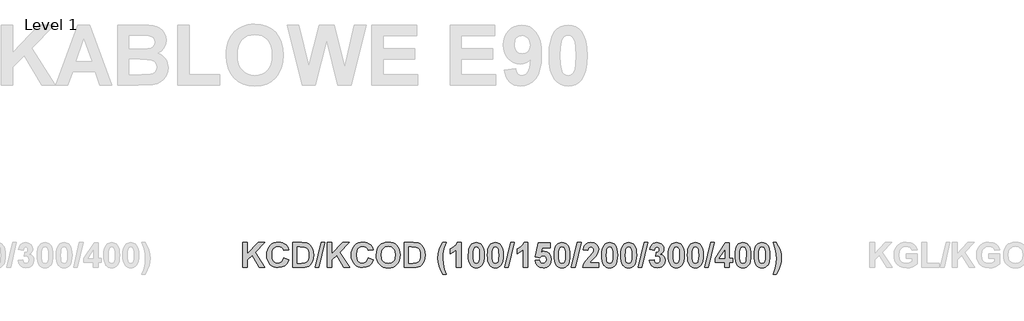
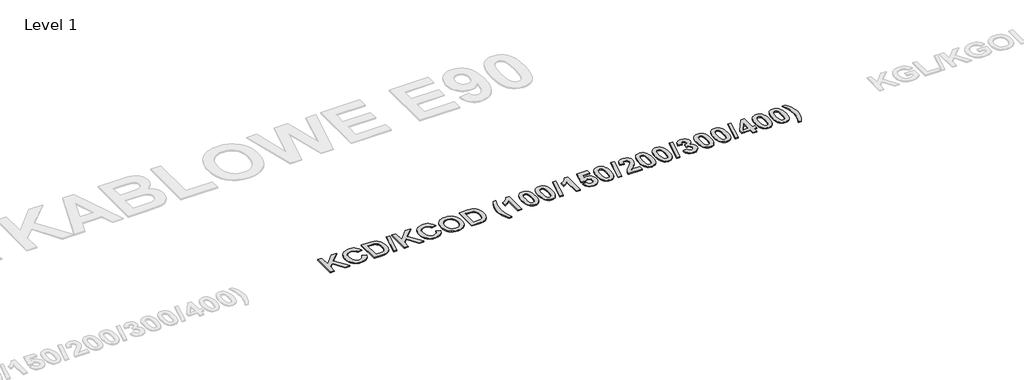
# One storey, part 18 of 42: 1 proxy.
"""IFC4 building model written with IfcOpenShell, lengths in millimetres."""

from ifc_helpers import new_model, si_unit, origin, origin_with_axes, place, context, project, spatial, polyline, outline, extrude, element, save

model = new_model("IFC4")

# Units and contexts
model_context = context("Model", 3, world=origin())
ifc_project = project(units=[si_unit("LENGTHUNIT", "METRE", prefix="MILLI")], contexts=[model_context])

# Site, building, storey
site = spatial("IfcSite", under=ifc_project)
building = spatial("IfcBuilding", under=site)
storey = spatial("IfcBuildingStorey", under=building, Name="Level 1", Elevation=0.0)

# Proxy
placement = place(None, origin())
element("IfcBuildingElementProxy", 1, Name="300mm Arial 2", ObjectType="300mm Arial 2", at=placement, inside=storey, context=model_context, shape_type="SweptSolid", body=[
    extrude(outline(polyline([(-9814.3228423, 4366.2760859), (-9814.3228423, 4621.3409359), (-9765.7390614, 4621.3409359), (-9765.7390614, 4505.0688143), (-9656.299034, 4621.3409359), (-9589.6228554, 4621.3409359), (-9686.157816, 4523.9203335), (-9585.574207, 4366.2760859), (-9642.381805, 4366.2760859), (-9717.7246216, 4491.9739671), (-9765.7390614, 4443.4534463), (-9765.7390614, 4366.2760859), (-9814.3228423, 4366.2760859)])), origin_with_axes(), (0.0, 0.0, 1.0), 10.0),
    extrude(outline(polyline([(-9393.2634074, 4463.4436478), (-9344.6796265, 4447.2490542), (-9360.0043933, 4411.4675423), (-9370.5253439, 4397.5325215), (-9382.952006, 4386.2346574), (-9413.3168691, 4371.2657288), (-9450.8933872, 4366.2760859), (-9475.2208615, 4368.4071616), (-9497.2788785, 4374.8003886), (-9517.0674384, 4385.455767), (-9534.5865411, 4400.3732968), (-9548.9228683, 4418.9875905), (-9559.1631021, 4440.7332606), (-9565.3072424, 4465.6103073), (-9567.3552891, 4493.6187305), (-9565.2894505, 4523.1533044), (-9559.0919345, 4549.192756), (-9548.7627411, 4571.7370854), (-9534.3018705, 4590.7862924), (-9516.4723978, 4605.9252326), (-9496.0373985, 4616.7387614), (-9472.9968725, 4623.2268786), (-9447.3508198, 4625.3895843), (-9424.9251032, 4623.6064394), (-9404.7134912, 4618.2570045), (-9386.7159838, 4609.3412797), (-9370.932581, 4596.8592651), (-9355.6078142, 4576.3471674), (-9344.6796265, 4548.4652645), (-9393.2634074, 4540.3679677), (-9400.7043804, 4557.1714401), (-9413.4117593, 4570.0053393), (-9430.4050121, 4578.1421737), (-9450.7036068, 4580.8544518), (-9478.1505963, 4575.9280691), (-9499.888359, 4561.1489208), (-9508.1497367, 4549.7719816), (-9514.0507209, 4535.3466947), (-9518.7715082, 4497.3510783), (-9514.1930562, 4457.275785), (-9508.4699912, 4442.2910414), (-9500.4577001, 4430.6748997), (-9479.3841689, 4415.7771388), (-9452.7911911, 4410.8112185), (-9432.7140069, 4413.9821326), (-9415.6258639, 4423.4948748), (-9402.2384386, 4439.8238963), (-9393.2634074, 4463.4436478)])), origin_with_axes(), (0.0, 0.0, 1.0), 10.0),
    extrude(outline(polyline([(-9304.1931423, 4621.3409359), (-9209.7457661, 4621.3409359), (-9181.5950076, 4620.1231784), (-9161.0354649, 4616.4699058), (-9140.1279914, 4607.2734642), (-9122.4467847, 4592.968767), (-9108.3002378, 4574.212138), (-9097.9967439, 4551.6599011), (-9091.7102683, 4524.3552469), (-9089.6147765, 4491.3413658), (-9091.5758405, 4462.0519249), (-9097.4590328, 4437.064173), (-9109.130527, 4411.8866407), (-9124.9139298, 4392.0229594), (-9140.6973326, 4380.4147253), (-9161.2252453, 4371.6531971), (-9181.1996318, 4367.6203637), (-9206.9623203, 4366.2760859), (-9304.1931423, 4366.2760859), (-9304.1931423, 4621.3409359)]), holes=[polyline([(-9255.6093614, 4576.8058034), (-9255.6093614, 4410.8112185), (-9214.2372354, 4410.8112185), (-9180.7093657, 4413.2151035), (-9158.3469093, 4423.6213951), (-9150.273335, 4433.3555478), (-9143.8287091, 4447.8183954), (-9139.6060953, 4467.7137067), (-9138.1985574, 4493.7452508), (-9139.6060953, 4519.4130491), (-9143.8287091, 4538.3436435), (-9150.5738206, 4552.1976123), (-9159.5488518, 4562.6355339), (-9171.0068431, 4569.9420791), (-9185.2008351, 4574.4019184), (-9230.6848696, 4576.8058034), (-9255.6093614, 4576.8058034)])]), origin_with_axes(), (0.0, 0.0, 1.0), 10.0),
    extrude(outline(polyline([(-9074.3058247, 4366.2760859), (-9013.5760985, 4621.3409359), (-8976.2526209, 4621.3409359), (-9036.9823471, 4366.2760859), (-9074.3058247, 4366.2760859)])), origin_with_axes(), (0.0, 0.0, 1.0), 10.0),
    extrude(outline(polyline([(-8951.9607304, 4366.2760859), (-8951.9607304, 4621.3409359), (-8903.3769495, 4621.3409359), (-8903.3769495, 4505.0688143), (-8793.9369221, 4621.3409359), (-8727.2607435, 4621.3409359), (-8823.7957041, 4523.9203335), (-8723.2120951, 4366.2760859), (-8780.0196932, 4366.2760859), (-8855.3625097, 4491.9739671), (-8903.3769495, 4443.4534463), (-8903.3769495, 4366.2760859), (-8951.9607304, 4366.2760859)])), origin_with_axes(), (0.0, 0.0, 1.0), 10.0),
    extrude(outline(polyline([(-8530.9012955, 4463.4436478), (-8482.3175146, 4447.2490542), (-8497.6422814, 4411.4675423), (-8508.163232, 4397.5325215), (-8520.5898941, 4386.2346574), (-8550.9547572, 4371.2657288), (-8588.5312753, 4366.2760859), (-8612.8587496, 4368.4071616), (-8634.9167667, 4374.8003886), (-8654.7053265, 4385.455767), (-8672.2244292, 4400.3732968), (-8686.5607565, 4418.9875905), (-8696.8009903, 4440.7332606), (-8702.9451305, 4465.6103073), (-8704.9931773, 4493.6187305), (-8702.9273386, 4523.1533044), (-8696.7298226, 4549.192756), (-8686.4006293, 4571.7370854), (-8671.9397586, 4590.7862924), (-8654.1102859, 4605.9252326), (-8633.6752866, 4616.7387614), (-8610.6347606, 4623.2268786), (-8584.9887079, 4625.3895843), (-8562.5629913, 4623.6064394), (-8542.3513793, 4618.2570045), (-8524.3538719, 4609.3412797), (-8508.5704691, 4596.8592651), (-8493.2457023, 4576.3471674), (-8482.3175146, 4548.4652645), (-8530.9012955, 4540.3679677), (-8538.3422685, 4557.1714401), (-8551.0496474, 4570.0053393), (-8568.0429002, 4578.1421737), (-8588.3414949, 4580.8544518), (-8615.7884844, 4575.9280691), (-8637.5262471, 4561.1489208), (-8645.7876249, 4549.7719816), (-8651.688609, 4535.3466947), (-8656.4093963, 4497.3510783), (-8651.8309443, 4457.275785), (-8646.1078793, 4442.2910414), (-8638.0955883, 4430.6748997), (-8617.022057, 4415.7771388), (-8590.4290792, 4410.8112185), (-8570.351895, 4413.9821326), (-8553.263752, 4423.4948748), (-8539.8763267, 4439.8238963), (-8530.9012955, 4463.4436478)])), origin_with_axes(), (0.0, 0.0, 1.0), 10.0),
    extrude(outline(polyline([(-8449.9283273, 4492.2270076), (-8447.0658063, 4528.000612), (-8438.4782435, 4557.5114633), (-8428.380345, 4575.9438841), (-8415.1668851, 4592.3994258), (-8399.6918754, 4605.8659263), (-8382.8093278, 4615.3312234), (-8357.6001654, 4622.8749941), (-8328.7851756, 4625.3895843), (-8302.4926834, 4623.2090867), (-8278.9678221, 4616.6675937), (-8258.2105914, 4605.7651054), (-8240.2209915, 4590.5016218), (-8225.6909301, 4571.3555477), (-8215.3123148, 4548.8052877), (-8209.0851456, 4522.8508419), (-8207.0094225, 4493.4922103), (-8209.0693306, 4464.3332434), (-8215.2490547, 4438.5349711), (-8225.5485948, 4416.0973932), (-8239.967951, 4397.0205098), (-8257.8389382, 4381.7985407), (-8278.4933711, 4370.9257056), (-8301.9312498, 4364.4020045), (-8328.1525743, 4362.2274375), (-8354.6506618, 4364.3921201), (-8378.2862284, 4370.886168), (-8399.0592741, 4381.7095811), (-8416.9697988, 4396.8623595), (-8431.389155, 4415.8107457), (-8441.6886952, 4438.0209825), (-8447.8684193, 4463.4930698), (-8449.9283273, 4492.2270076)]), holes=[polyline([(-8401.3445463, 4493.9982913), (-8396.1809381, 4456.2478079), (-8389.7264278, 4441.2749255), (-8380.6901134, 4428.9036161), (-8357.2443272, 4412.2978316), (-8328.2158344, 4406.7625701), (-8299.2506017, 4412.258294), (-8275.9945959, 4428.7454657), (-8267.0689867, 4441.1108446), (-8260.6935516, 4456.2240853), (-8255.5932035, 4494.6941528), (-8260.5591238, 4532.5869715), (-8266.7665242, 4547.4056573), (-8275.4568848, 4559.4725274), (-8298.5784628, 4575.5089707), (-8328.2158344, 4580.8544518), (-8357.9164661, 4575.4457106), (-8381.2278245, 4559.2194868), (-8390.0288903, 4547.0300503), (-8396.3153659, 4532.0967055), (-8401.3445463, 4493.9982913)])]), origin_with_axes(), (0.0, 0.0, 1.0), 10.0),
    extrude(outline(polyline([(-8166.5229384, 4621.3409359), (-8072.0755622, 4621.3409359), (-8043.9248037, 4620.1231784), (-8023.3652609, 4616.4699058), (-8002.4577875, 4607.2734642), (-7984.7765808, 4592.968767), (-7970.6300339, 4574.212138), (-7960.32654, 4551.6599011), (-7954.0400644, 4524.3552469), (-7951.9445725, 4491.3413658), (-7953.9056366, 4462.0519249), (-7959.7888288, 4437.064173), (-7971.4603231, 4411.8866407), (-7987.2437259, 4392.0229594), (-8003.0271287, 4380.4147253), (-8023.5550413, 4371.6531971), (-8043.5294278, 4367.6203637), (-8069.2921164, 4366.2760859), (-8166.5229384, 4366.2760859), (-8166.5229384, 4621.3409359)]), holes=[polyline([(-8117.9391575, 4576.8058034), (-8117.9391575, 4410.8112185), (-8076.5670315, 4410.8112185), (-8043.0391618, 4413.2151035), (-8020.6767054, 4423.6213951), (-8012.6031311, 4433.3555478), (-8006.1585052, 4447.8183954), (-8001.9358914, 4467.7137067), (-8000.5283535, 4493.7452508), (-8001.9358914, 4519.4130491), (-8006.1585052, 4538.3436435), (-8012.9036167, 4552.1976123), (-8021.8786479, 4562.6355339), (-8033.3366392, 4569.9420791), (-8047.5306312, 4574.4019184), (-8093.0146657, 4576.8058034), (-8117.9391575, 4576.8058034)])]), origin_with_axes(), (0.0, 0.0, 1.0), 10.0),
    extrude(outline(polyline([(-7737.3662067, 4297.4490629), (-7769.755394, 4297.4490629), (-7792.4262436, 4337.1210729), (-7808.9450454, 4378.327141), (-7819.0271289, 4419.6280993), (-7822.3878233, 4459.5847798), (-7818.2759148, 4506.9824333), (-7805.9401892, 4551.7547913), (-7789.7455955, 4588.0344767), (-7769.755394, 4621.3409359), (-7737.3662067, 4621.3409359), (-7754.9288007, 4574.1014328), (-7765.9914162, 4534.4847754), (-7771.8508858, 4497.6041188), (-7773.8040424, 4458.5726177), (-7769.1227927, 4401.92317), (-7756.280986, 4346.8552256), (-7737.3662067, 4297.4490629)])), origin_with_axes(), (0.0, 0.0, 1.0), 10.0),
    extrude(outline(polyline([(-7583.517567, 4366.2760859), (-7632.101348, 4366.2760859), (-7632.101348, 4548.5917848), (-7660.1572163, 4524.7110851), (-7692.8310741, 4507.9787804), (-7692.8310741, 4556.5625613), (-7673.3627687, 4565.6482977), (-7652.2813299, 4580.3800008), (-7633.8251865, 4599.3975778), (-7622.2327675, 4621.3409359), (-7583.517567, 4621.3409359), (-7583.517567, 4366.2760859)])), origin_with_axes(), (0.0, 0.0, 1.0), 10.0),
    extrude(outline(polyline([(-7429.6689273, 4621.3409359), (-7412.537293, 4619.6961725), (-7397.3904453, 4614.7618822), (-7384.2283842, 4606.5380652), (-7373.0511097, 4595.0247212), (-7362.3957313, 4576.8967398), (-7354.7847467, 4553.6367802), (-7350.218156, 4525.2448425), (-7348.6959591, 4491.7209266), (-7350.2260635, 4458.2286407), (-7354.8163768, 4429.8050729), (-7362.4668989, 4406.4502232), (-7373.1776299, 4388.1640914), (-7384.2995518, 4376.8168053), (-7397.4220753, 4368.711601), (-7412.5452005, 4363.8484784), (-7429.6689273, 4362.2274375), (-7446.9765039, 4364.0066287), (-7462.5246581, 4369.3442023), (-7476.3133899, 4378.2401583), (-7488.3426992, 4390.6944967), (-7498.0985976, 4407.7154258), (-7505.0670965, 4430.311154), (-7509.2481958, 4458.4816813), (-7510.6418956, 4492.2270076), (-7509.1117912, 4525.5532356), (-7504.5214779, 4553.8581907), (-7496.8709557, 4577.1418728), (-7486.1602247, 4595.404282), (-7475.0383029, 4606.7515681), (-7461.9157793, 4614.8567724), (-7446.7926542, 4619.7198951), (-7429.6689273, 4621.3409359)]), holes=[polyline([(-7429.6689273, 4576.8058034), (-7445.863521, 4571.4603223), (-7452.1895341, 4563.9877192), (-7456.8707839, 4552.2608724), (-7460.7612819, 4528.1113172), (-7462.0581146, 4491.7209266), (-7460.9036172, 4455.8128945), (-7457.440125, 4433.2369351), (-7452.2132567, 4419.9839375), (-7445.7686308, 4412.044791), (-7429.6689273, 4406.7625701), (-7413.4743337, 4412.1080512), (-7407.1483205, 4419.5806542), (-7402.4670708, 4431.3075011), (-7398.5765727, 4455.330536), (-7397.27974, 4491.7209266), (-7398.4342374, 4527.5894211), (-7401.8977296, 4550.173288), (-7407.124598, 4563.4658232), (-7413.5692239, 4571.4603223), (-7429.6689273, 4576.8058034)])]), origin_with_axes(), (0.0, 0.0, 1.0), 10.0),
    extrude(outline(polyline([(-7235.3338035, 4621.3409359), (-7218.2021692, 4619.6961725), (-7203.0553215, 4614.7618822), (-7189.8932604, 4606.5380652), (-7178.7159859, 4595.0247212), (-7168.0606075, 4576.8967398), (-7160.4496229, 4553.6367802), (-7155.8830322, 4525.2448425), (-7154.3608353, 4491.7209266), (-7155.8909397, 4458.2286407), (-7160.481253, 4429.8050729), (-7168.1317751, 4406.4502232), (-7178.8425061, 4388.1640914), (-7189.964428, 4376.8168053), (-7203.0869515, 4368.711601), (-7218.2100767, 4363.8484784), (-7235.3338035, 4362.2274375), (-7252.6413801, 4364.0066287), (-7268.1895343, 4369.3442023), (-7281.9782661, 4378.2401583), (-7294.0075754, 4390.6944967), (-7303.7634738, 4407.7154258), (-7310.7319727, 4430.311154), (-7314.913072, 4458.4816813), (-7316.3067718, 4492.2270076), (-7314.7766673, 4525.5532356), (-7310.1863541, 4553.8581907), (-7302.5358319, 4577.1418728), (-7291.8251009, 4595.404282), (-7280.703179, 4606.7515681), (-7267.5806555, 4614.8567724), (-7252.4575304, 4619.7198951), (-7235.3338035, 4621.3409359)]), holes=[polyline([(-7235.3338035, 4576.8058034), (-7251.5283972, 4571.4603223), (-7257.8544103, 4563.9877192), (-7262.5356601, 4552.2608724), (-7266.4261581, 4528.1113172), (-7267.7229908, 4491.7209266), (-7266.5684934, 4455.8128945), (-7263.1050012, 4433.2369351), (-7257.8781329, 4419.9839375), (-7251.433507, 4412.044791), (-7235.3338035, 4406.7625701), (-7219.1392099, 4412.1080512), (-7212.8131967, 4419.5806542), (-7208.131947, 4431.3075011), (-7204.2414489, 4455.330536), (-7202.9446162, 4491.7209266), (-7204.0991136, 4527.5894211), (-7207.5626058, 4550.173288), (-7212.7894742, 4563.4658232), (-7219.2341001, 4571.4603223), (-7235.3338035, 4576.8058034)])]), origin_with_axes(), (0.0, 0.0, 1.0), 10.0),
    extrude(outline(polyline([(-7139.0518835, 4366.2760859), (-7078.3221573, 4621.3409359), (-7040.9986797, 4621.3409359), (-7101.7284059, 4366.2760859), (-7139.0518835, 4366.2760859)])), origin_with_axes(), (0.0, 0.0, 1.0), 10.0),
    extrude(outline(polyline([(-6903.3446337, 4366.2760859), (-6951.9284147, 4366.2760859), (-6951.9284147, 4548.5917848), (-6979.9842829, 4524.7110851), (-7012.6581408, 4507.9787804), (-7012.6581408, 4556.5625613), (-6993.1898354, 4565.6482977), (-6972.1083966, 4580.3800008), (-6953.6522532, 4599.3975778), (-6942.0598341, 4621.3409359), (-6903.3446337, 4621.3409359), (-6903.3446337, 4366.2760859)])), origin_with_axes(), (0.0, 0.0, 1.0), 10.0),
    extrude(outline(polyline([(-6830.4689623, 4438.0763351), (-6785.9338297, 4443.2004058), (-6781.7902911, 4428.1286795), (-6773.534844, 4416.5678904), (-6762.4326909, 4409.2139001), (-6749.7490346, 4406.7625701), (-6735.5550426, 4409.364143), (-6723.7174905, 4417.1688617), (-6715.7229913, 4430.2083563), (-6713.0581583, 4448.5142568), (-6715.533211, 4465.6735675), (-6722.9583689, 4477.9302179), (-6734.3531001, 4485.2842082), (-6748.7368724, 4487.7355383), (-6767.5567616, 4482.6747278), (-6784.2890663, 4467.4922962), (-6826.4203139, 4473.7550493), (-6798.079775, 4617.2922875), (-6676.6203226, 4617.2922875), (-6676.6203226, 4568.7085066), (-6758.7952333, 4568.7085066), (-6768.6005537, 4522.3388302), (-6753.1176366, 4529.7877107), (-6737.2867887, 4532.2706708), (-6709.1676602, 4526.5219064), (-6685.6665214, 4509.2756131), (-6669.7724134, 4482.8566007), (-6664.4743774, 4449.589679), (-6668.8867715, 4420.6639839), (-6682.123954, 4394.9961856), (-6695.3413677, 4380.6598583), (-6710.8914988, 4370.4196245), (-6728.7743472, 4364.2754843), (-6748.989913, 4362.2274375), (-6779.9952849, 4367.3673232), (-6804.6904587, 4382.7869802), (-6821.905122, 4406.8890903), (-6830.4689623, 4438.0763351)])), origin_with_axes(), (0.0, 0.0, 1.0), 10.0),
    extrude(outline(polyline([(-6555.1608702, 4621.3409359), (-6538.0292359, 4619.6961725), (-6522.8823882, 4614.7618822), (-6509.7203271, 4606.5380652), (-6498.5430526, 4595.0247212), (-6487.8876742, 4576.8967398), (-6480.2766896, 4553.6367802), (-6475.7100989, 4525.2448425), (-6474.187902, 4491.7209266), (-6475.7180064, 4458.2286407), (-6480.3083197, 4429.8050729), (-6487.9588418, 4406.4502232), (-6498.6695728, 4388.1640914), (-6509.7914947, 4376.8168053), (-6522.9140182, 4368.711601), (-6538.0371434, 4363.8484784), (-6555.1608702, 4362.2274375), (-6572.4684468, 4364.0066287), (-6588.016601, 4369.3442023), (-6601.8053328, 4378.2401583), (-6613.8346421, 4390.6944967), (-6623.5905405, 4407.7154258), (-6630.5590394, 4430.311154), (-6634.7401387, 4458.4816813), (-6636.1338385, 4492.2270076), (-6634.603734, 4525.5532356), (-6630.0134208, 4553.8581907), (-6622.3628986, 4577.1418728), (-6611.6521676, 4595.404282), (-6600.5302457, 4606.7515681), (-6587.4077222, 4614.8567724), (-6572.2845971, 4619.7198951), (-6555.1608702, 4621.3409359)]), holes=[polyline([(-6555.1608702, 4576.8058034), (-6571.3554639, 4571.4603223), (-6577.681477, 4563.9877192), (-6582.3627267, 4552.2608724), (-6586.2532248, 4528.1113172), (-6587.5500575, 4491.7209266), (-6586.3955601, 4455.8128945), (-6582.9320679, 4433.2369351), (-6577.7051996, 4419.9839375), (-6571.2605737, 4412.044791), (-6555.1608702, 4406.7625701), (-6538.9662766, 4412.1080512), (-6532.6402634, 4419.5806542), (-6527.9590137, 4431.3075011), (-6524.0685156, 4455.330536), (-6522.7716829, 4491.7209266), (-6523.9261803, 4527.5894211), (-6527.3896725, 4550.173288), (-6532.6165409, 4563.4658232), (-6539.0611668, 4571.4603223), (-6555.1608702, 4576.8058034)])]), origin_with_axes(), (0.0, 0.0, 1.0), 10.0),
    extrude(outline(polyline([(-6458.8789502, 4366.2760859), (-6398.149224, 4621.3409359), (-6360.8257464, 4621.3409359), (-6421.5554726, 4366.2760859), (-6458.8789502, 4366.2760859)])), origin_with_axes(), (0.0, 0.0, 1.0), 10.0),
    extrude(outline(polyline([(-6182.6852163, 4414.8598669), (-6182.6852163, 4366.2760859), (-6344.6311528, 4366.2760859), (-6339.459637, 4390.7814793), (-6329.1324206, 4413.942595), (-6309.9487857, 4440.1243819), (-6278.2080148, 4473.6917891), (-6240.6314967, 4514.4313138), (-6233.6096221, 4529.1392943), (-6231.2689972, 4543.6574945), (-6233.2379688, 4557.8040414), (-6239.1448836, 4568.2340556), (-6248.5152906, 4574.6628664), (-6260.8747387, 4576.8058034), (-6273.1472042, 4574.6944965), (-6282.636224, 4568.3605758), (-6289.0254972, 4557.13981), (-6291.9987234, 4540.3679677), (-6340.5825044, 4544.7961769), (-6331.9791265, 4579.9450874), (-6324.3562806, 4593.1842468), (-6314.5193302, 4603.5332089), (-6289.895324, 4616.8890042), (-6259.7993165, 4621.3409359), (-6227.6631697, 4616.3512931), (-6203.244759, 4601.3823644), (-6187.825102, 4578.9961854), (-6182.6852163, 4551.7547913), (-6188.315368, 4519.6186446), (-6206.154725, 4487.6722782), (-6236.3614378, 4455.7891719), (-6264.1010054, 4428.1444945), (-6273.2104644, 4414.8598669), (-6182.6852163, 4414.8598669)])), origin_with_axes(), (0.0, 0.0, 1.0), 10.0),
    extrude(outline(polyline([(-6069.3230607, 4621.3409359), (-6052.1914264, 4619.6961725), (-6037.0445787, 4614.7618822), (-6023.8825176, 4606.5380652), (-6012.7052431, 4595.0247212), (-6002.0498647, 4576.8967398), (-5994.4388801, 4553.6367802), (-5989.8722894, 4525.2448425), (-5988.3500925, 4491.7209266), (-5989.8801969, 4458.2286407), (-5994.4705102, 4429.8050729), (-6002.1210323, 4406.4502232), (-6012.8317633, 4388.1640914), (-6023.9536852, 4376.8168053), (-6037.0762087, 4368.711601), (-6052.1993339, 4363.8484784), (-6069.3230607, 4362.2274375), (-6086.6306373, 4364.0066287), (-6102.1787915, 4369.3442023), (-6115.9675233, 4378.2401583), (-6127.9968326, 4390.6944967), (-6137.752731, 4407.7154258), (-6144.7212299, 4430.311154), (-6148.9023292, 4458.4816813), (-6150.296029, 4492.2270076), (-6148.7659245, 4525.5532356), (-6144.1756113, 4553.8581907), (-6136.5250891, 4577.1418728), (-6125.8143581, 4595.404282), (-6114.6924362, 4606.7515681), (-6101.5699127, 4614.8567724), (-6086.4467876, 4619.7198951), (-6069.3230607, 4621.3409359)]), holes=[polyline([(-6069.3230607, 4576.8058034), (-6085.5176544, 4571.4603223), (-6091.8436675, 4563.9877192), (-6096.5249172, 4552.2608724), (-6100.4154153, 4528.1113172), (-6101.712248, 4491.7209266), (-6100.5577506, 4455.8128945), (-6097.0942584, 4433.2369351), (-6091.8673901, 4419.9839375), (-6085.4227642, 4412.044791), (-6069.3230607, 4406.7625701), (-6053.1284671, 4412.1080512), (-6046.8024539, 4419.5806542), (-6042.1212042, 4431.3075011), (-6038.2307061, 4455.330536), (-6036.9338734, 4491.7209266), (-6038.0883708, 4527.5894211), (-6041.551863, 4550.173288), (-6046.7787314, 4563.4658232), (-6053.2233573, 4571.4603223), (-6069.3230607, 4576.8058034)])]), origin_with_axes(), (0.0, 0.0, 1.0), 10.0),
    extrude(outline(polyline([(-5874.9879369, 4621.3409359), (-5857.8563026, 4619.6961725), (-5842.7094548, 4614.7618822), (-5829.5473938, 4606.5380652), (-5818.3701193, 4595.0247212), (-5807.7147409, 4576.8967398), (-5800.1037563, 4553.6367802), (-5795.5371656, 4525.2448425), (-5794.0149687, 4491.7209266), (-5795.5450731, 4458.2286407), (-5800.1353864, 4429.8050729), (-5807.7859085, 4406.4502232), (-5818.4966395, 4388.1640914), (-5829.6185614, 4376.8168053), (-5842.7410849, 4368.711601), (-5857.8642101, 4363.8484784), (-5874.9879369, 4362.2274375), (-5892.2955135, 4364.0066287), (-5907.8436677, 4369.3442023), (-5921.6323995, 4378.2401583), (-5933.6617088, 4390.6944967), (-5943.4176072, 4407.7154258), (-5950.3861061, 4430.311154), (-5954.5672054, 4458.4816813), (-5955.9609052, 4492.2270076), (-5954.4308007, 4525.5532356), (-5949.8404875, 4553.8581907), (-5942.1899653, 4577.1418728), (-5931.4792343, 4595.404282), (-5920.3573124, 4606.7515681), (-5907.2347889, 4614.8567724), (-5892.1116638, 4619.7198951), (-5874.9879369, 4621.3409359)]), holes=[polyline([(-5874.9879369, 4576.8058034), (-5891.1825306, 4571.4603223), (-5897.5085437, 4563.9877192), (-5902.1897934, 4552.2608724), (-5906.0802915, 4528.1113172), (-5907.3771242, 4491.7209266), (-5906.2226268, 4455.8128945), (-5902.7591346, 4433.2369351), (-5897.5322663, 4419.9839375), (-5891.0876404, 4412.044791), (-5874.9879369, 4406.7625701), (-5858.7933433, 4412.1080512), (-5852.4673301, 4419.5806542), (-5847.7860804, 4431.3075011), (-5843.8955823, 4455.330536), (-5842.5987496, 4491.7209266), (-5843.753247, 4527.5894211), (-5847.2167392, 4550.173288), (-5852.4436076, 4563.4658232), (-5858.8882335, 4571.4603223), (-5874.9879369, 4576.8058034)])]), origin_with_axes(), (0.0, 0.0, 1.0), 10.0),
    extrude(outline(polyline([(-5778.7060169, 4366.2760859), (-5717.9762907, 4621.3409359), (-5680.6528131, 4621.3409359), (-5741.3825393, 4366.2760859), (-5778.7060169, 4366.2760859)])), origin_with_axes(), (0.0, 0.0, 1.0), 10.0),
    extrude(outline(polyline([(-5664.4582195, 4437.5702541), (-5615.8744385, 4443.2004058), (-5612.1262757, 4427.5751533), (-5604.9304358, 4416.1250695), (-5595.0776703, 4409.1031949), (-5583.358731, 4406.7625701), (-5570.7857798, 4409.4432181), (-5560.3953032, 4417.4851623), (-5553.4208737, 4430.066021), (-5551.0960639, 4446.3634123), (-5553.2231858, 4461.7830694), (-5559.6045516, 4473.628529), (-5569.0540337, 4481.1722997), (-5580.3855048, 4483.6868899), (-5599.6798449, 4480.0810624), (-5595.4414161, 4520.1247256), (-5581.6111698, 4521.8643792), (-5571.4974563, 4528.0955022), (-5565.3058709, 4537.9640827), (-5563.2420092, 4550.616109), (-5564.7839749, 4561.3624238), (-5569.409872, 4569.6890386), (-5576.5978044, 4575.0266122), (-5585.8258761, 4576.8058034), (-5595.2120981, 4574.7419416), (-5603.127522, 4568.5503562), (-5608.8921015, 4558.3891976), (-5611.8257901, 4544.4166161), (-5660.4095711, 4551.6915312), (-5654.850587, 4573.4292939), (-5647.0300533, 4590.3118414), (-5636.307461, 4603.2248158), (-5622.0423013, 4613.0538587), (-5605.0490485, 4619.2691666), (-5586.1421767, 4621.3409359), (-5555.4926431, 4615.600079), (-5542.706189, 4608.4240078), (-5531.6119434, 4598.3775082), (-5518.896657, 4578.3556766), (-5514.6582282, 4555.8666999), (-5516.9316392, 4539.921193), (-5523.7518721, 4525.6758021), (-5535.118927, 4513.1305273), (-5551.0328038, 4502.2853685), (-5531.1691225, 4494.7336903), (-5515.7336504, 4481.4411552), (-5505.8176248, 4463.5780756), (-5502.512283, 4442.3147639), (-5508.3717526, 4411.5466175), (-5525.9501617, 4385.6653162), (-5538.3867081, 4375.4112443), (-5552.2584688, 4368.0869072), (-5584.3076329, 4362.2274375), (-5614.5696983, 4367.4384908), (-5639.185797, 4383.0716508), (-5656.4004602, 4407.1184083), (-5664.4582195, 4437.5702541)])), origin_with_axes(), (0.0, 0.0, 1.0), 10.0),
    extrude(outline(polyline([(-5389.1501274, 4621.3409359), (-5372.0184931, 4619.6961725), (-5356.8716453, 4614.7618822), (-5343.7095842, 4606.5380652), (-5332.5323098, 4595.0247212), (-5321.8769314, 4576.8967398), (-5314.2659468, 4553.6367802), (-5309.6993561, 4525.2448425), (-5308.1771592, 4491.7209266), (-5309.7072636, 4458.2286407), (-5314.2975769, 4429.8050729), (-5321.948099, 4406.4502232), (-5332.65883, 4388.1640914), (-5343.7807519, 4376.8168053), (-5356.9032754, 4368.711601), (-5372.0264006, 4363.8484784), (-5389.1501274, 4362.2274375), (-5406.457704, 4364.0066287), (-5422.0058582, 4369.3442023), (-5435.79459, 4378.2401583), (-5447.8238993, 4390.6944967), (-5457.5797977, 4407.7154258), (-5464.5482966, 4430.311154), (-5468.7293959, 4458.4816813), (-5470.1230957, 4492.2270076), (-5468.5929912, 4525.5532356), (-5464.0026779, 4553.8581907), (-5456.3521558, 4577.1418728), (-5445.6414248, 4595.404282), (-5434.5195029, 4606.7515681), (-5421.3969794, 4614.8567724), (-5406.2738542, 4619.7198951), (-5389.1501274, 4621.3409359)]), holes=[polyline([(-5389.1501274, 4576.8058034), (-5405.3447211, 4571.4603223), (-5411.6707342, 4563.9877192), (-5416.3519839, 4552.2608724), (-5420.242482, 4528.1113172), (-5421.5393147, 4491.7209266), (-5420.3848173, 4455.8128945), (-5416.9213251, 4433.2369351), (-5411.6944568, 4419.9839375), (-5405.2498309, 4412.044791), (-5389.1501274, 4406.7625701), (-5372.9555338, 4412.1080512), (-5366.6295206, 4419.5806542), (-5361.9482709, 4431.3075011), (-5358.0577728, 4455.330536), (-5356.7609401, 4491.7209266), (-5357.9154375, 4527.5894211), (-5361.3789297, 4550.173288), (-5366.6057981, 4563.4658232), (-5373.050424, 4571.4603223), (-5389.1501274, 4576.8058034)])]), origin_with_axes(), (0.0, 0.0, 1.0), 10.0),
    extrude(outline(polyline([(-5194.8150036, 4621.3409359), (-5177.6833693, 4619.6961725), (-5162.5365215, 4614.7618822), (-5149.3744604, 4606.5380652), (-5138.197186, 4595.0247212), (-5127.5418076, 4576.8967398), (-5119.930823, 4553.6367802), (-5115.3642323, 4525.2448425), (-5113.8420354, 4491.7209266), (-5115.3721398, 4458.2286407), (-5119.9624531, 4429.8050729), (-5127.6129752, 4406.4502232), (-5138.3237062, 4388.1640914), (-5149.4456281, 4376.8168053), (-5162.5681516, 4368.711601), (-5177.6912768, 4363.8484784), (-5194.8150036, 4362.2274375), (-5212.1225802, 4364.0066287), (-5227.6707344, 4369.3442023), (-5241.4594662, 4378.2401583), (-5253.4887755, 4390.6944967), (-5263.2446739, 4407.7154258), (-5270.2131728, 4430.311154), (-5274.3942721, 4458.4816813), (-5275.7879719, 4492.2270076), (-5274.2578674, 4525.5532356), (-5269.6675541, 4553.8581907), (-5262.017032, 4577.1418728), (-5251.306301, 4595.404282), (-5240.1843791, 4606.7515681), (-5227.0618556, 4614.8567724), (-5211.9387304, 4619.7198951), (-5194.8150036, 4621.3409359)]), holes=[polyline([(-5194.8150036, 4576.8058034), (-5211.0095973, 4571.4603223), (-5217.3356104, 4563.9877192), (-5222.0168601, 4552.2608724), (-5225.9073582, 4528.1113172), (-5227.2041909, 4491.7209266), (-5226.0496935, 4455.8128945), (-5222.5862013, 4433.2369351), (-5217.359333, 4419.9839375), (-5210.9147071, 4412.044791), (-5194.8150036, 4406.7625701), (-5178.62041, 4412.1080512), (-5172.2943968, 4419.5806542), (-5167.6131471, 4431.3075011), (-5163.722649, 4455.330536), (-5162.4258163, 4491.7209266), (-5163.5803137, 4527.5894211), (-5167.0438059, 4550.173288), (-5172.2706743, 4563.4658232), (-5178.7153002, 4571.4603223), (-5194.8150036, 4576.8058034)])]), origin_with_axes(), (0.0, 0.0, 1.0), 10.0),
    extrude(outline(polyline([(-5098.5330836, 4366.2760859), (-5037.8033574, 4621.3409359), (-5000.4798798, 4621.3409359), (-5061.209606, 4366.2760859), (-5098.5330836, 4366.2760859)])), origin_with_axes(), (0.0, 0.0, 1.0), 10.0),
    extrude(outline(polyline([(-4895.2150211, 4366.2760859), (-4895.2150211, 4418.9085153), (-4992.382583, 4418.9085153), (-4992.382583, 4459.205219), (-4888.7624877, 4617.2922875), (-4846.6312401, 4617.2922875), (-4846.6312401, 4459.3949994), (-4814.2420528, 4459.3949994), (-4814.2420528, 4418.9085153), (-4846.6312401, 4418.9085153), (-4846.6312401, 4366.2760859), (-4895.2150211, 4366.2760859)]), holes=[polyline([(-4895.2150211, 4459.3949994), (-4895.2150211, 4542.2657716), (-4949.4922139, 4459.3949994), (-4895.2150211, 4459.3949994)])]), origin_with_axes(), (0.0, 0.0, 1.0), 10.0),
    extrude(outline(polyline([(-4708.9771941, 4621.3409359), (-4691.8455598, 4619.6961725), (-4676.698712, 4614.7618822), (-4663.5366509, 4606.5380652), (-4652.3593765, 4595.0247212), (-4641.7039981, 4576.8967398), (-4634.0930135, 4553.6367802), (-4629.5264228, 4525.2448425), (-4628.0042259, 4491.7209266), (-4629.5343303, 4458.2286407), (-4634.1246436, 4429.8050729), (-4641.7751657, 4406.4502232), (-4652.4858967, 4388.1640914), (-4663.6078186, 4376.8168053), (-4676.7303421, 4368.711601), (-4691.8534673, 4363.8484784), (-4708.9771941, 4362.2274375), (-4726.2847707, 4364.0066287), (-4741.8329249, 4369.3442023), (-4755.6216567, 4378.2401583), (-4767.650966, 4390.6944967), (-4777.4068644, 4407.7154258), (-4784.3753633, 4430.311154), (-4788.5564626, 4458.4816813), (-4789.9501624, 4492.2270076), (-4788.4200579, 4525.5532356), (-4783.8297446, 4553.8581907), (-4776.1792225, 4577.1418728), (-4765.4684915, 4595.404282), (-4754.3465696, 4606.7515681), (-4741.2240461, 4614.8567724), (-4726.1009209, 4619.7198951), (-4708.9771941, 4621.3409359)]), holes=[polyline([(-4708.9771941, 4576.8058034), (-4725.1717878, 4571.4603223), (-4731.4978009, 4563.9877192), (-4736.1790506, 4552.2608724), (-4740.0695487, 4528.1113172), (-4741.3663814, 4491.7209266), (-4740.211884, 4455.8128945), (-4736.7483918, 4433.2369351), (-4731.5215235, 4419.9839375), (-4725.0768976, 4412.044791), (-4708.9771941, 4406.7625701), (-4692.7826005, 4412.1080512), (-4686.4565873, 4419.5806542), (-4681.7753376, 4431.3075011), (-4677.8848395, 4455.330536), (-4676.5880068, 4491.7209266), (-4677.7425042, 4527.5894211), (-4681.2059964, 4550.173288), (-4686.4328648, 4563.4658232), (-4692.8774907, 4571.4603223), (-4708.9771941, 4576.8058034)])]), origin_with_axes(), (0.0, 0.0, 1.0), 10.0),
    extrude(outline(polyline([(-4514.6420703, 4621.3409359), (-4497.510436, 4619.6961725), (-4482.3635882, 4614.7618822), (-4469.2015271, 4606.5380652), (-4458.0242527, 4595.0247212), (-4447.3688743, 4576.8967398), (-4439.7578897, 4553.6367802), (-4435.191299, 4525.2448425), (-4433.6691021, 4491.7209266), (-4435.1992065, 4458.2286407), (-4439.7895198, 4429.8050729), (-4447.4400419, 4406.4502232), (-4458.1507729, 4388.1640914), (-4469.2726948, 4376.8168053), (-4482.3952183, 4368.711601), (-4497.5183435, 4363.8484784), (-4514.6420703, 4362.2274375), (-4531.9496469, 4364.0066287), (-4547.4978011, 4369.3442023), (-4561.2865329, 4378.2401583), (-4573.3158422, 4390.6944967), (-4583.0717406, 4407.7154258), (-4590.0402395, 4430.311154), (-4594.2213388, 4458.4816813), (-4595.6150386, 4492.2270076), (-4594.0849341, 4525.5532356), (-4589.4946208, 4553.8581907), (-4581.8440987, 4577.1418728), (-4571.1333677, 4595.404282), (-4560.0114458, 4606.7515681), (-4546.8889223, 4614.8567724), (-4531.7657971, 4619.7198951), (-4514.6420703, 4621.3409359)]), holes=[polyline([(-4514.6420703, 4576.8058034), (-4530.836664, 4571.4603223), (-4537.1626771, 4563.9877192), (-4541.8439268, 4552.2608724), (-4545.7344249, 4528.1113172), (-4547.0312576, 4491.7209266), (-4545.8767602, 4455.8128945), (-4542.413268, 4433.2369351), (-4537.1863997, 4419.9839375), (-4530.7417738, 4412.044791), (-4514.6420703, 4406.7625701), (-4498.4474767, 4412.1080512), (-4492.1214635, 4419.5806542), (-4487.4402138, 4431.3075011), (-4483.5497157, 4455.330536), (-4482.252883, 4491.7209266), (-4483.4073804, 4527.5894211), (-4486.8708726, 4550.173288), (-4492.097741, 4563.4658232), (-4498.5423669, 4571.4603223), (-4514.6420703, 4576.8058034)])]), origin_with_axes(), (0.0, 0.0, 1.0), 10.0),
    extrude(outline(polyline([(-4401.2799148, 4297.4490629), (-4383.2824074, 4343.4391785), (-4373.6036073, 4380.3514652), (-4366.9929235, 4420.0471977), (-4364.842079, 4458.5726177), (-4366.7873281, 4497.6041188), (-4372.6230752, 4534.4847754), (-4383.6777832, 4574.1014328), (-4401.2799148, 4621.3409359), (-4368.8907275, 4621.3409359), (-4346.6943288, 4584.0016433), (-4330.0806368, 4544.4798762), (-4319.7138828, 4503.5822012), (-4316.2582981, 4462.1151851), (-4319.0259288, 4425.6140892), (-4327.3288211, 4386.5825881), (-4344.0453108, 4341.7153399), (-4368.8907275, 4297.4490629), (-4401.2799148, 4297.4490629)])), origin_with_axes(), (0.0, 0.0, 1.0), 10.0),
])

save(model, "model.ifc")
